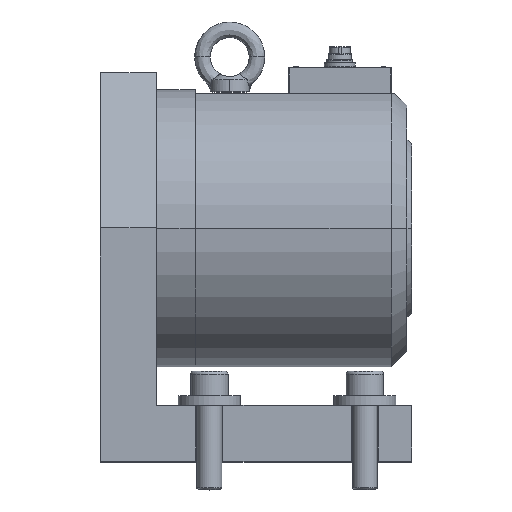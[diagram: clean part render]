
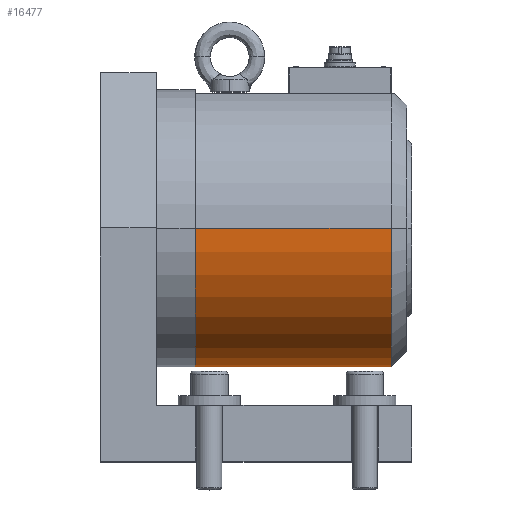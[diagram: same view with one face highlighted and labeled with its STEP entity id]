
A CAD part, top view. The second image highlights one B-rep face of the part: STEP entity #16477.
In plain terms, the highlighted cylindrical face has radius 89 mm (diameter 178 mm), a partial arc.
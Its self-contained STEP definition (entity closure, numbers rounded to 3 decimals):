
#421 = ORIENTED_EDGE ( 'NONE', *, *, #12039, .T. ) ;
#859 = DIRECTION ( 'NONE',  ( -1., 0., 0. ) ) ;
#1607 = VERTEX_POINT ( 'NONE', #10477 ) ;
#1774 = EDGE_CURVE ( 'NONE', #1607, #4842, #18175, .T. ) ;
#2329 = DIRECTION ( 'NONE',  ( 0., 0., -1. ) ) ;
#2437 = CARTESIAN_POINT ( 'NONE',  ( 197., 150., -61. ) ) ;
#3813 = VECTOR ( 'NONE', #8796, 1000. ) ;
#4531 = ORIENTED_EDGE ( 'NONE', *, *, #19224, .T. ) ;
#4842 = VERTEX_POINT ( 'NONE', #20035 ) ;
#5370 = LINE ( 'NONE', #2437, #3813 ) ;
#5709 = CARTESIAN_POINT ( 'NONE',  ( 187., 150., -61. ) ) ;
#6860 = EDGE_CURVE ( 'NONE', #18529, #16247, #5370, .T. ) ;
#7743 = ORIENTED_EDGE ( 'NONE', *, *, #6860, .T. ) ;
#8640 = AXIS2_PLACEMENT_3D ( 'NONE', #11590, #16593, #2329 ) ;
#8796 = DIRECTION ( 'NONE',  ( -1., 0., 0. ) ) ;
#10074 = EDGE_LOOP ( 'NONE', ( #13542, #421, #7743, #4531 ) ) ;
#10477 = CARTESIAN_POINT ( 'NONE',  ( 187., 150., -239. ) ) ;
#11590 = CARTESIAN_POINT ( 'NONE',  ( 187., 150., -150. ) ) ;
#11610 = AXIS2_PLACEMENT_3D ( 'NONE', #13552, #14736, #16101 ) ;
#11858 = CARTESIAN_POINT ( 'NONE',  ( 197., 150., -239. ) ) ;
#12002 = AXIS2_PLACEMENT_3D ( 'NONE', #13568, #18563, #17164 ) ;
#12039 = EDGE_CURVE ( 'NONE', #1607, #18529, #14996, .T. ) ;
#13542 = ORIENTED_EDGE ( 'NONE', *, *, #1774, .F. ) ;
#13552 = CARTESIAN_POINT ( 'NONE',  ( 197., 150., -150. ) ) ;
#13568 = CARTESIAN_POINT ( 'NONE',  ( 61., 150., -150. ) ) ;
#13953 = CYLINDRICAL_SURFACE ( 'NONE', #11610, 89. ) ;
#14042 = VECTOR ( 'NONE', #859, 1000. ) ;
#14736 = DIRECTION ( 'NONE',  ( -1., 0., 0. ) ) ;
#14888 = CARTESIAN_POINT ( 'NONE',  ( 61., 150., -61. ) ) ;
#14996 = CIRCLE ( 'NONE', #8640, 89. ) ;
#16101 = DIRECTION ( 'NONE',  ( 0., 0., 1. ) ) ;
#16228 = FACE_OUTER_BOUND ( 'NONE', #10074, .T. ) ;
#16247 = VERTEX_POINT ( 'NONE', #14888 ) ;
#16477 = ADVANCED_FACE ( 'NONE', ( #16228 ), #13953, .T. ) ;
#16593 = DIRECTION ( 'NONE',  ( -1., 0., 0. ) ) ;
#17164 = DIRECTION ( 'NONE',  ( 0., 0., -1. ) ) ;
#18175 = LINE ( 'NONE', #11858, #14042 ) ;
#18284 = CIRCLE ( 'NONE', #12002, 89. ) ;
#18529 = VERTEX_POINT ( 'NONE', #5709 ) ;
#18563 = DIRECTION ( 'NONE',  ( 1., 0., 0. ) ) ;
#19224 = EDGE_CURVE ( 'NONE', #16247, #4842, #18284, .T. ) ;
#20035 = CARTESIAN_POINT ( 'NONE',  ( 61., 150., -239. ) ) ;
